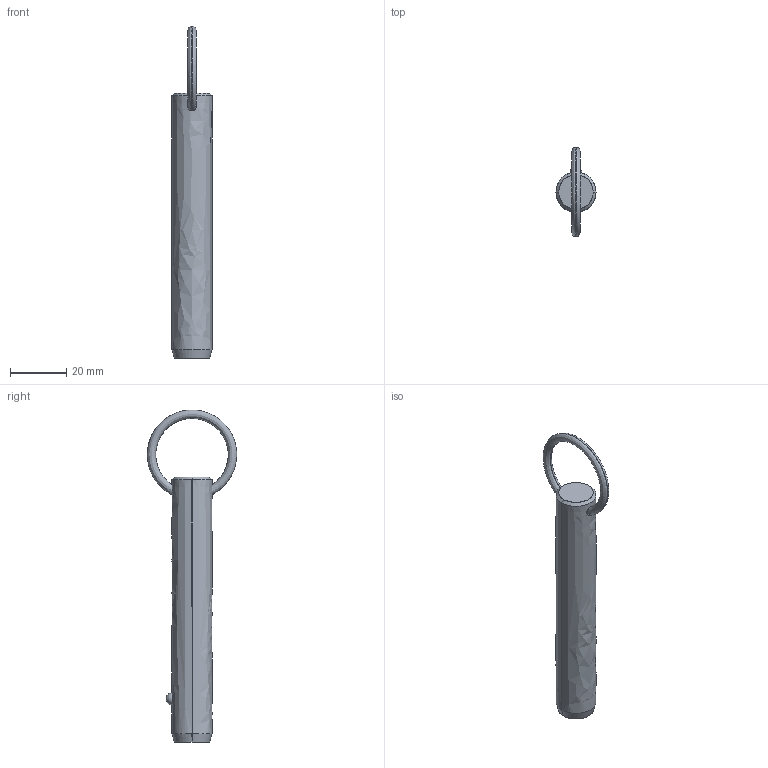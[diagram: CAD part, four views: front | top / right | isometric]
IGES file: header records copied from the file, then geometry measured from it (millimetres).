
Start section: SolidWorks IGES file using analytic representation for surfaces
Global section: file name: C:\Users\liam_\OneDrive\Documents\WORK\Work for WixRoyd\Job Files\J-00019 - Matt Davis CAD Checking\04. CAD Drawings\automotion20190605\P1250.2_v2\P1250.2_v2_20190729_IGES\P1250.056-270.igs; native system: SolidWorks 2017; preprocessor: SolidWorks 2017; author: liam_; date: 190729.231900; units: millimetre
Bounding box: 14.2 x 31.69 x 117.7 mm (x, y, z)
Surface area: 5154.8 mm2 (no closed solid volume)
Topology: 0 solids, 0 shells, 12 faces, 285 edges, 283 vertices
Faces by surface type: revolution 8, bspline 4
